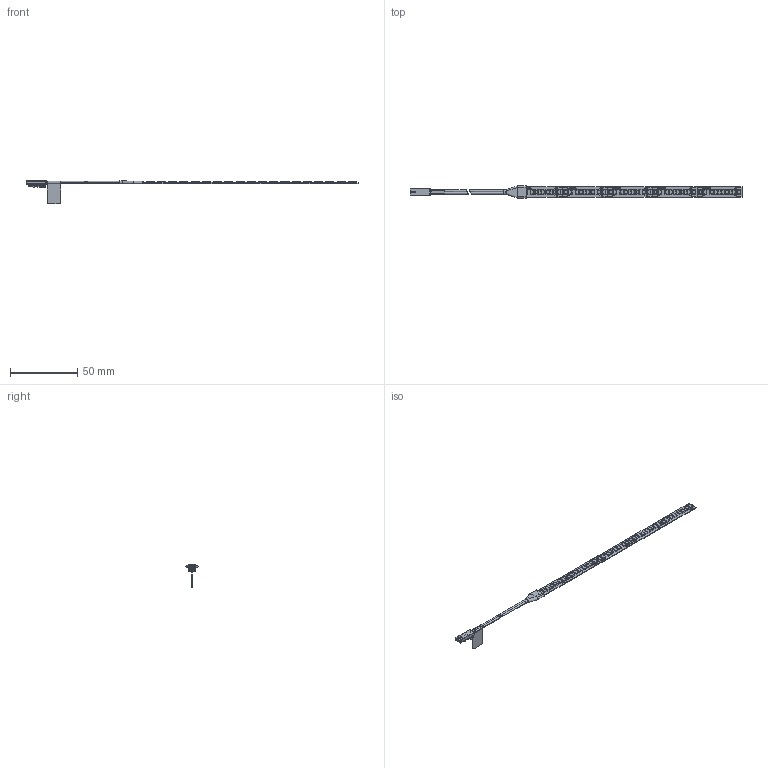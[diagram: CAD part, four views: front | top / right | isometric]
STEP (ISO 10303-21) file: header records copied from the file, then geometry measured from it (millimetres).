
FILE_DESCRIPTION (( 'STEP AP203' ), '1' );
FILE_NAME ('VersaInside_mw_24.STEP', '2024-11-27T12:33:02', ( '' ), ( '' ), 'SwSTEP 2.0', 'SolidWorks 2023', '' );
FILE_SCHEMA (( 'CONFIG_CONTROL_DESIGN' ));
Length unit declared in the file: millimetre
Products named in the file (5): 5604431; Aufkleber_Versa_pdm; VersaInside_mw_24; LED_Stecker_Versa_pdm_mit Schnitt_70mm; 5604431_Schrumpf_li
Assembly tree (7 placements, depth 2):
  VersaInside_mw_24
    5604431_Schrumpf_li
    LED_Stecker_Versa_pdm_mit Schnitt_70mm
    5604431  x4
    Aufkleber_Versa_pdm
Bounding box: 246.35 x 9 x 17.6 mm (x, y, z)
Volume: 1589.8 mm3; surface area: 5122.4 mm2
Topology: 18 solids, 18 shells, 1504 faces, 3862 edges, 2487 vertices
Faces by surface type: plane 947, cylinder 323, bspline 167, torus 36, sphere 31
Entity records: 32552 total; most frequent: CARTESIAN_POINT 13773, ORIENTED_EDGE 3846, DIRECTION 3604, EDGE_CURVE 1923, VECTOR 1284, LINE 1284, VERTEX_POINT 1221, AXIS2_PLACEMENT_3D 1160
